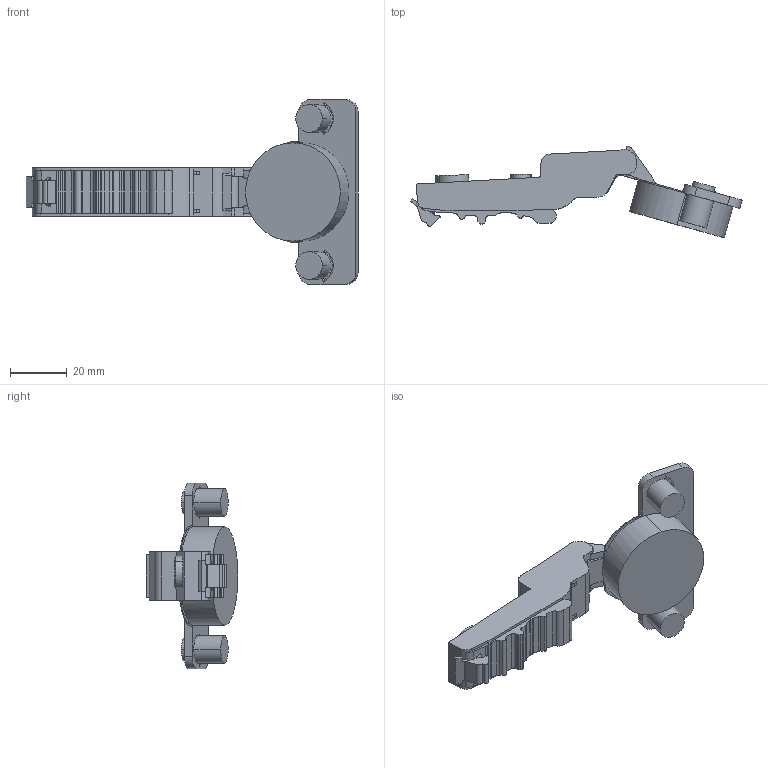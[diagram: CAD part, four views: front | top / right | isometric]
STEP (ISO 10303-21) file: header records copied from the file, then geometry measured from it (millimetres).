
FILE_DESCRIPTION (( 'STEP AP203' ), '1' );
FILE_NAME ('C82B677T0FA-DTC 3D open.STEP', '2024-07-10T09:08:06', ( '微软用户' ), ( '微软中国' ), 'SwSTEP 2.0', 'SolidWorks 2021', '' );
FILE_SCHEMA (( 'CONFIG_CONTROL_DESIGN' ));
Length unit declared in the file: millimetre
Products named in the file (1): C82B677T0FA-DTC 3D open
Bounding box: 117.45 x 32.41 x 65.56 mm (x, y, z)
Volume: 35886.3 mm3; surface area: 12403.7 mm2
Topology: 1 solids, 5 shells, 401 faces, 1113 edges, 722 vertices
Faces by surface type: plane 165, cylinder 164, torus 54, bspline 14, cone 4
Entity records: 13502 total; most frequent: CARTESIAN_POINT 3107, ORIENTED_EDGE 2226, DIRECTION 2186, EDGE_CURVE 1113, AXIS2_PLACEMENT_3D 813, VERTEX_POINT 722, VECTOR 560, LINE 560
